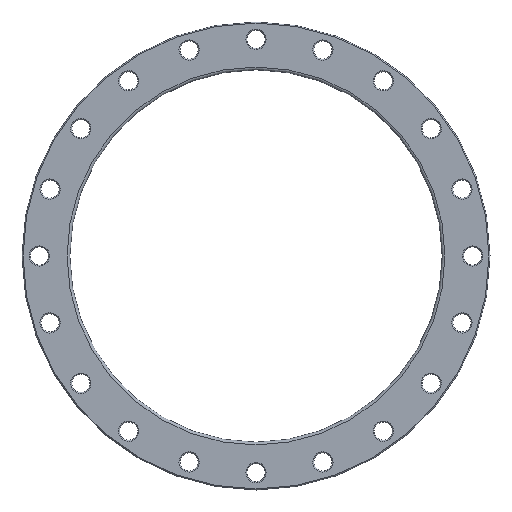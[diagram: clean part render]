
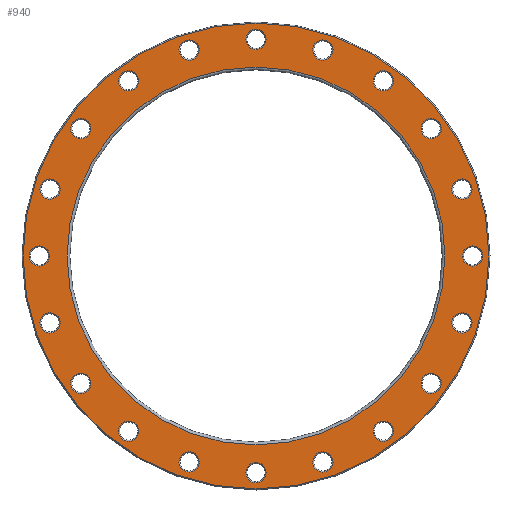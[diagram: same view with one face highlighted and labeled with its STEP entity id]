
A CAD part, front view. The second image highlights one B-rep face of the part: STEP entity #940.
In plain terms, the highlighted planar face has unit normal (0, -1, 0).
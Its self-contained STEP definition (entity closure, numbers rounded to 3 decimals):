
#23=PLANE('',#1104);
#206=ORIENTED_EDGE('',*,*,#325,.T.);
#207=ORIENTED_EDGE('',*,*,#326,.T.);
#208=ORIENTED_EDGE('',*,*,#244,.T.);
#209=ORIENTED_EDGE('',*,*,#248,.T.);
#210=ORIENTED_EDGE('',*,*,#252,.T.);
#211=ORIENTED_EDGE('',*,*,#256,.T.);
#212=ORIENTED_EDGE('',*,*,#260,.T.);
#213=ORIENTED_EDGE('',*,*,#264,.T.);
#214=ORIENTED_EDGE('',*,*,#268,.T.);
#215=ORIENTED_EDGE('',*,*,#272,.T.);
#216=ORIENTED_EDGE('',*,*,#276,.T.);
#217=ORIENTED_EDGE('',*,*,#280,.T.);
#218=ORIENTED_EDGE('',*,*,#284,.T.);
#219=ORIENTED_EDGE('',*,*,#288,.T.);
#220=ORIENTED_EDGE('',*,*,#292,.T.);
#221=ORIENTED_EDGE('',*,*,#296,.T.);
#222=ORIENTED_EDGE('',*,*,#300,.T.);
#223=ORIENTED_EDGE('',*,*,#304,.T.);
#224=ORIENTED_EDGE('',*,*,#308,.T.);
#225=ORIENTED_EDGE('',*,*,#312,.T.);
#226=ORIENTED_EDGE('',*,*,#316,.T.);
#227=ORIENTED_EDGE('',*,*,#327,.T.);
#244=EDGE_CURVE('',#332,#332,#420,.T.);
#248=EDGE_CURVE('',#336,#336,#424,.T.);
#252=EDGE_CURVE('',#340,#340,#428,.T.);
#256=EDGE_CURVE('',#344,#344,#432,.T.);
#260=EDGE_CURVE('',#348,#348,#436,.T.);
#264=EDGE_CURVE('',#352,#352,#440,.T.);
#268=EDGE_CURVE('',#356,#356,#444,.T.);
#272=EDGE_CURVE('',#360,#360,#448,.T.);
#276=EDGE_CURVE('',#364,#364,#452,.T.);
#280=EDGE_CURVE('',#368,#368,#456,.T.);
#284=EDGE_CURVE('',#372,#372,#460,.T.);
#288=EDGE_CURVE('',#376,#376,#464,.T.);
#292=EDGE_CURVE('',#380,#380,#468,.T.);
#296=EDGE_CURVE('',#384,#384,#472,.T.);
#300=EDGE_CURVE('',#388,#388,#476,.T.);
#304=EDGE_CURVE('',#392,#392,#480,.T.);
#308=EDGE_CURVE('',#396,#396,#484,.T.);
#312=EDGE_CURVE('',#400,#400,#488,.T.);
#316=EDGE_CURVE('',#404,#404,#492,.T.);
#325=EDGE_CURVE('',#413,#413,#501,.F.);
#326=EDGE_CURVE('',#414,#414,#502,.T.);
#327=EDGE_CURVE('',#415,#415,#503,.T.);
#332=VERTEX_POINT('',#1439);
#336=VERTEX_POINT('',#1450);
#340=VERTEX_POINT('',#1461);
#344=VERTEX_POINT('',#1472);
#348=VERTEX_POINT('',#1483);
#352=VERTEX_POINT('',#1494);
#356=VERTEX_POINT('',#1505);
#360=VERTEX_POINT('',#1516);
#364=VERTEX_POINT('',#1527);
#368=VERTEX_POINT('',#1538);
#372=VERTEX_POINT('',#1549);
#376=VERTEX_POINT('',#1560);
#380=VERTEX_POINT('',#1571);
#384=VERTEX_POINT('',#1582);
#388=VERTEX_POINT('',#1593);
#392=VERTEX_POINT('',#1604);
#396=VERTEX_POINT('',#1615);
#400=VERTEX_POINT('',#1626);
#404=VERTEX_POINT('',#1637);
#413=VERTEX_POINT('',#1660);
#414=VERTEX_POINT('',#1662);
#415=VERTEX_POINT('',#1664);
#420=CIRCLE('',#965,14.5);
#424=CIRCLE('',#972,14.5);
#428=CIRCLE('',#979,14.5);
#432=CIRCLE('',#986,14.5);
#436=CIRCLE('',#993,14.5);
#440=CIRCLE('',#1000,14.5);
#444=CIRCLE('',#1007,14.5);
#448=CIRCLE('',#1014,14.5);
#452=CIRCLE('',#1021,14.5);
#456=CIRCLE('',#1028,14.5);
#460=CIRCLE('',#1035,14.5);
#464=CIRCLE('',#1042,14.5);
#468=CIRCLE('',#1049,14.5);
#472=CIRCLE('',#1056,14.5);
#476=CIRCLE('',#1063,14.5);
#480=CIRCLE('',#1070,14.5);
#484=CIRCLE('',#1077,14.5);
#488=CIRCLE('',#1084,14.5);
#492=CIRCLE('',#1091,14.5);
#501=CIRCLE('',#1105,333.5);
#502=CIRCLE('',#1106,270.5);
#503=CIRCLE('',#1107,14.5);
#646=EDGE_LOOP('',(#206));
#647=EDGE_LOOP('',(#207));
#648=EDGE_LOOP('',(#208));
#649=EDGE_LOOP('',(#209));
#650=EDGE_LOOP('',(#210));
#651=EDGE_LOOP('',(#211));
#652=EDGE_LOOP('',(#212));
#653=EDGE_LOOP('',(#213));
#654=EDGE_LOOP('',(#214));
#655=EDGE_LOOP('',(#215));
#656=EDGE_LOOP('',(#216));
#657=EDGE_LOOP('',(#217));
#658=EDGE_LOOP('',(#218));
#659=EDGE_LOOP('',(#219));
#660=EDGE_LOOP('',(#220));
#661=EDGE_LOOP('',(#221));
#662=EDGE_LOOP('',(#222));
#663=EDGE_LOOP('',(#223));
#664=EDGE_LOOP('',(#224));
#665=EDGE_LOOP('',(#225));
#666=EDGE_LOOP('',(#226));
#667=EDGE_LOOP('',(#227));
#822=FACE_BOUND('',#646,.T.);
#823=FACE_BOUND('',#647,.T.);
#824=FACE_BOUND('',#648,.T.);
#825=FACE_BOUND('',#649,.T.);
#826=FACE_BOUND('',#650,.T.);
#827=FACE_BOUND('',#651,.T.);
#828=FACE_BOUND('',#652,.T.);
#829=FACE_BOUND('',#653,.T.);
#830=FACE_BOUND('',#654,.T.);
#831=FACE_BOUND('',#655,.T.);
#832=FACE_BOUND('',#656,.T.);
#833=FACE_BOUND('',#657,.T.);
#834=FACE_BOUND('',#658,.T.);
#835=FACE_BOUND('',#659,.T.);
#836=FACE_BOUND('',#660,.T.);
#837=FACE_BOUND('',#661,.T.);
#838=FACE_BOUND('',#662,.T.);
#839=FACE_BOUND('',#663,.T.);
#840=FACE_BOUND('',#664,.T.);
#841=FACE_BOUND('',#665,.T.);
#842=FACE_BOUND('',#666,.T.);
#843=FACE_BOUND('',#667,.T.);
#940=ADVANCED_FACE('',(#822,#823,#824,#825,#826,#827,#828,#829,#830,#831,
#832,#833,#834,#835,#836,#837,#838,#839,#840,#841,#842,#843),#23,.F.);
#965=AXIS2_PLACEMENT_3D('',#1438,#1127,#1128);
#972=AXIS2_PLACEMENT_3D('',#1449,#1141,#1142);
#979=AXIS2_PLACEMENT_3D('',#1460,#1155,#1156);
#986=AXIS2_PLACEMENT_3D('',#1471,#1169,#1170);
#993=AXIS2_PLACEMENT_3D('',#1482,#1183,#1184);
#1000=AXIS2_PLACEMENT_3D('',#1493,#1197,#1198);
#1007=AXIS2_PLACEMENT_3D('',#1504,#1211,#1212);
#1014=AXIS2_PLACEMENT_3D('',#1515,#1225,#1226);
#1021=AXIS2_PLACEMENT_3D('',#1526,#1239,#1240);
#1028=AXIS2_PLACEMENT_3D('',#1537,#1253,#1254);
#1035=AXIS2_PLACEMENT_3D('',#1548,#1267,#1268);
#1042=AXIS2_PLACEMENT_3D('',#1559,#1281,#1282);
#1049=AXIS2_PLACEMENT_3D('',#1570,#1295,#1296);
#1056=AXIS2_PLACEMENT_3D('',#1581,#1309,#1310);
#1063=AXIS2_PLACEMENT_3D('',#1592,#1323,#1324);
#1070=AXIS2_PLACEMENT_3D('',#1603,#1337,#1338);
#1077=AXIS2_PLACEMENT_3D('',#1614,#1351,#1352);
#1084=AXIS2_PLACEMENT_3D('',#1625,#1365,#1366);
#1091=AXIS2_PLACEMENT_3D('',#1636,#1379,#1380);
#1104=AXIS2_PLACEMENT_3D('',#1658,#1405,#1406);
#1105=AXIS2_PLACEMENT_3D('',#1659,#1407,#1408);
#1106=AXIS2_PLACEMENT_3D('',#1661,#1409,#1410);
#1107=AXIS2_PLACEMENT_3D('',#1663,#1411,#1412);
#1127=DIRECTION('',(0.,1.,0.));
#1128=DIRECTION('',(0.951,0.,0.309));
#1141=DIRECTION('',(0.,1.,0.));
#1142=DIRECTION('',(0.809,0.,0.588));
#1155=DIRECTION('',(0.,1.,0.));
#1156=DIRECTION('',(0.588,0.,0.809));
#1169=DIRECTION('',(0.,1.,0.));
#1170=DIRECTION('',(0.309,0.,0.951));
#1183=DIRECTION('',(0.,1.,0.));
#1184=DIRECTION('',(0.,0.,1.));
#1197=DIRECTION('',(0.,1.,0.));
#1198=DIRECTION('',(-0.309,0.,0.951));
#1211=DIRECTION('',(0.,1.,0.));
#1212=DIRECTION('',(-0.588,0.,0.809));
#1225=DIRECTION('',(0.,1.,0.));
#1226=DIRECTION('',(-0.809,0.,0.588));
#1239=DIRECTION('',(0.,1.,0.));
#1240=DIRECTION('',(-0.951,0.,0.309));
#1253=DIRECTION('',(0.,1.,0.));
#1254=DIRECTION('',(-1.,0.,0.));
#1267=DIRECTION('',(0.,1.,0.));
#1268=DIRECTION('',(-0.951,0.,-0.309));
#1281=DIRECTION('',(0.,1.,0.));
#1282=DIRECTION('',(-0.809,0.,-0.588));
#1295=DIRECTION('',(0.,1.,0.));
#1296=DIRECTION('',(-0.588,0.,-0.809));
#1309=DIRECTION('',(0.,1.,0.));
#1310=DIRECTION('',(-0.309,0.,-0.951));
#1323=DIRECTION('',(0.,1.,0.));
#1324=DIRECTION('',(0.,0.,-1.));
#1337=DIRECTION('',(0.,1.,0.));
#1338=DIRECTION('',(0.309,0.,-0.951));
#1351=DIRECTION('',(0.,1.,0.));
#1352=DIRECTION('',(0.588,0.,-0.809));
#1365=DIRECTION('',(0.,1.,0.));
#1366=DIRECTION('',(0.809,0.,-0.588));
#1379=DIRECTION('',(0.,1.,0.));
#1380=DIRECTION('',(0.951,0.,-0.309));
#1405=DIRECTION('',(0.,1.,0.));
#1406=DIRECTION('',(0.,0.,1.));
#1407=DIRECTION('',(0.,1.,0.));
#1408=DIRECTION('',(0.,0.,1.));
#1409=DIRECTION('',(0.,1.,0.));
#1410=DIRECTION('',(0.,0.,1.));
#1411=DIRECTION('',(0.,1.,0.));
#1412=DIRECTION('',(1.,0.,0.));
#1438=CARTESIAN_POINT('',(-95.795,0.,294.828));
#1439=CARTESIAN_POINT('',(-82.005,0.,299.308));
#1449=CARTESIAN_POINT('',(-182.213,0.,250.795));
#1450=CARTESIAN_POINT('',(-170.483,0.,259.318));
#1460=CARTESIAN_POINT('',(-250.795,0.,182.213));
#1461=CARTESIAN_POINT('',(-242.272,0.,193.944));
#1471=CARTESIAN_POINT('',(-294.828,0.,95.795));
#1472=CARTESIAN_POINT('',(-290.347,0.,109.586));
#1482=CARTESIAN_POINT('',(-310.,0.,0.));
#1483=CARTESIAN_POINT('',(-310.,0.,14.5));
#1493=CARTESIAN_POINT('',(-294.828,0.,-95.795));
#1494=CARTESIAN_POINT('',(-299.308,0.,-82.005));
#1504=CARTESIAN_POINT('',(-250.795,0.,-182.213));
#1505=CARTESIAN_POINT('',(-259.318,0.,-170.483));
#1515=CARTESIAN_POINT('',(-182.213,0.,-250.795));
#1516=CARTESIAN_POINT('',(-193.944,0.,-242.272));
#1526=CARTESIAN_POINT('',(-95.795,0.,-294.828));
#1527=CARTESIAN_POINT('',(-109.586,0.,-290.347));
#1537=CARTESIAN_POINT('',(0.,0.,-310.));
#1538=CARTESIAN_POINT('',(-14.5,0.,-310.));
#1548=CARTESIAN_POINT('',(95.795,0.,-294.828));
#1549=CARTESIAN_POINT('',(82.005,0.,-299.308));
#1559=CARTESIAN_POINT('',(182.213,0.,-250.795));
#1560=CARTESIAN_POINT('',(170.483,0.,-259.318));
#1570=CARTESIAN_POINT('',(250.795,0.,-182.213));
#1571=CARTESIAN_POINT('',(242.272,0.,-193.944));
#1581=CARTESIAN_POINT('',(294.828,0.,-95.795));
#1582=CARTESIAN_POINT('',(290.347,0.,-109.586));
#1592=CARTESIAN_POINT('',(310.,0.,0.));
#1593=CARTESIAN_POINT('',(310.,0.,-14.5));
#1603=CARTESIAN_POINT('',(294.828,0.,95.795));
#1604=CARTESIAN_POINT('',(299.308,0.,82.005));
#1614=CARTESIAN_POINT('',(250.795,0.,182.213));
#1615=CARTESIAN_POINT('',(259.318,0.,170.483));
#1625=CARTESIAN_POINT('',(182.213,0.,250.795));
#1626=CARTESIAN_POINT('',(193.944,0.,242.272));
#1636=CARTESIAN_POINT('',(95.795,0.,294.828));
#1637=CARTESIAN_POINT('',(109.586,0.,290.347));
#1658=CARTESIAN_POINT('',(0.,0.,0.));
#1659=CARTESIAN_POINT('',(0.,0.,0.));
#1660=CARTESIAN_POINT('',(0.,0.,333.5));
#1661=CARTESIAN_POINT('',(0.,0.,0.));
#1662=CARTESIAN_POINT('',(0.,0.,270.5));
#1663=CARTESIAN_POINT('',(0.,0.,310.));
#1664=CARTESIAN_POINT('',(14.5,0.,310.));
